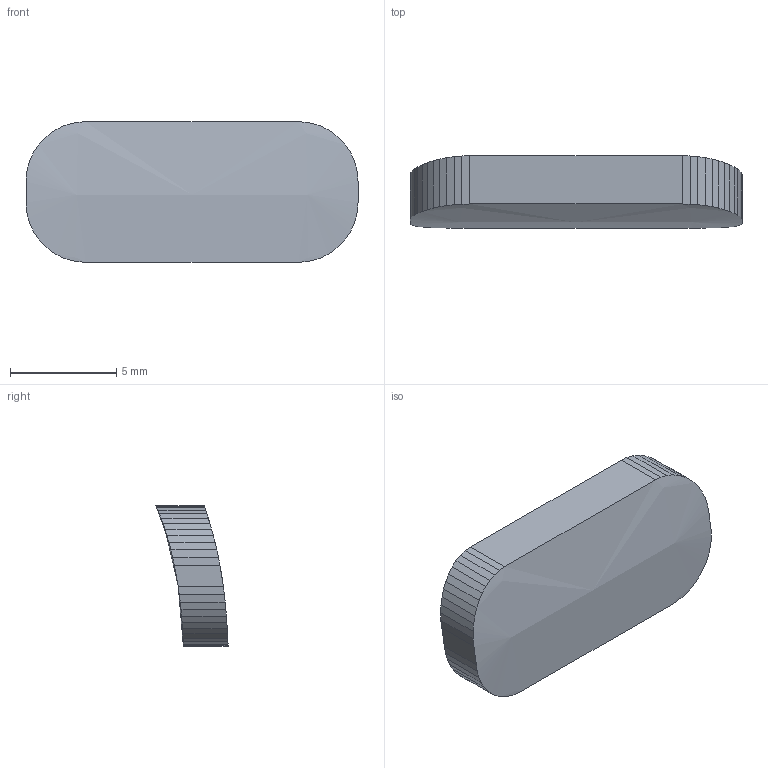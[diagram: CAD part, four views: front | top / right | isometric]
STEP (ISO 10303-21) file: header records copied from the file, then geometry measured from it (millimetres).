
FILE_DESCRIPTION(('Open CASCADE Model'),'2;1');
FILE_NAME('Open CASCADE Shape Model','2026-11-11T21:53:52',('Author'),( 'Open CASCADE'),'Open CASCADE STEP processor 8.0','build123d', 'Unknown');
FILE_SCHEMA(('AUTOMOTIVE_DESIGN { 1 0 10303 214 1 1 1 1 }'));
Length unit declared in the file: millimetre
Products named in the file (1): SOLID
Bounding box: 15.6 x 3.39 x 6.6 mm (x, y, z)
Volume: 206.2 mm3; surface area: 282.3 mm2
Topology: 1 solids, 1 shells, 54 faces, 156 edges, 104 vertices
Faces by surface type: plane 52, offset 2
Entity records: 16396 total; most frequent: CARTESIAN_POINT 14187, B_SPLINE_CURVE_WITH_KNOTS 468, ORIENTED_EDGE 312, PCURVE 312, DEFINITIONAL_REPRESENTATION 312, EDGE_CURVE 156, SURFACE_CURVE 156, DIRECTION 106
